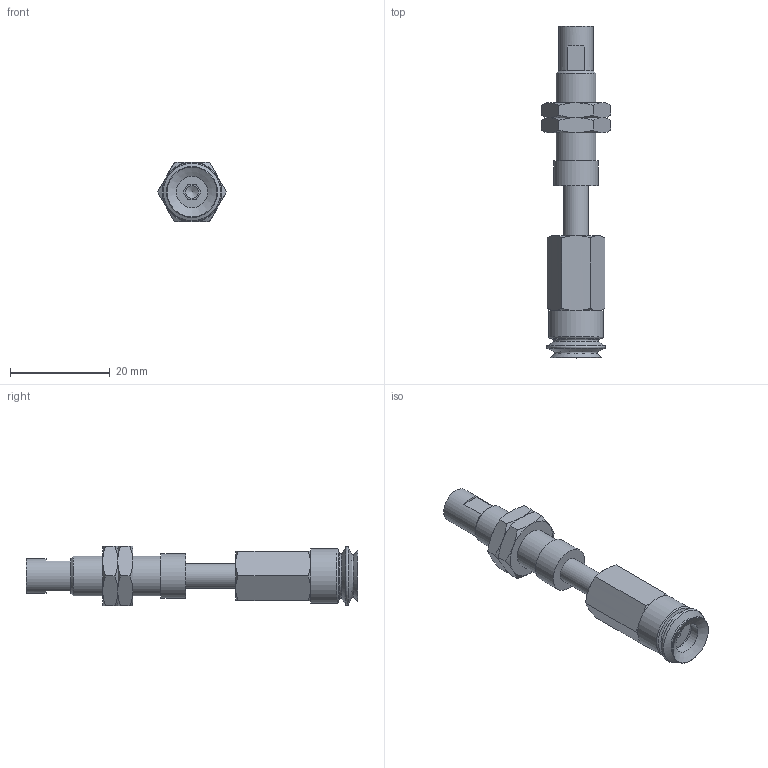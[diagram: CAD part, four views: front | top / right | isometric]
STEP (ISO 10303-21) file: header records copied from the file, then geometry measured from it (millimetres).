
FILE_DESCRIPTION(('STEP AP203'),'1');
FILE_NAME('.stp','2025-08-27T07:26:20',(' '),(' '),'Spatial InterOp 3D',' ',' ');
FILE_SCHEMA(('CONFIG_CONTROL_DESIGN'));
Length unit declared in the file: millimetre
Products named in the file (7): BNABPJTS-10-10-※; ADAPTER; NAPCTS-10-10-MBODY; Adapter-10-NAPJ; NUT-NAPJ-10-10-s; NAPJTS-10-10-FBODY; BPJG-10-※
Assembly tree (7 placements, depth 2):
  BNABPJTS-10-10-※
    ADAPTER
    NAPCTS-10-10-MBODY
    Adapter-10-NAPJ
    NUT-NAPJ-10-10-s  x2
    NAPJTS-10-10-FBODY
    BPJG-10-※
Bounding box: 13.86 x 66.5 x 12 mm (x, y, z)
Volume: 4035.6 mm3; surface area: 4439.6 mm2
Topology: 7 solids, 7 shells, 122 faces, 253 edges, 151 vertices
Faces by surface type: cone 51, plane 48, cylinder 16, torus 7
Full cylindrical faces by diameter (mm): 2.5 x1, 4.134 x2, 4.6 x1, 5 x3, 6.266 x1, 7 x1, 7.188 x2, 7.8 x1, 8 x2, 9 x1, 11 x1
Entity records: 3108 total; most frequent: CARTESIAN_POINT 876, DIRECTION 402, ORIENTED_EDGE 322, AXIS2_PLACEMENT_3D 182, EDGE_CURVE 161, EDGE_LOOP 148, FACE_OUTER_BOUND 121, VERTEX_POINT 116
